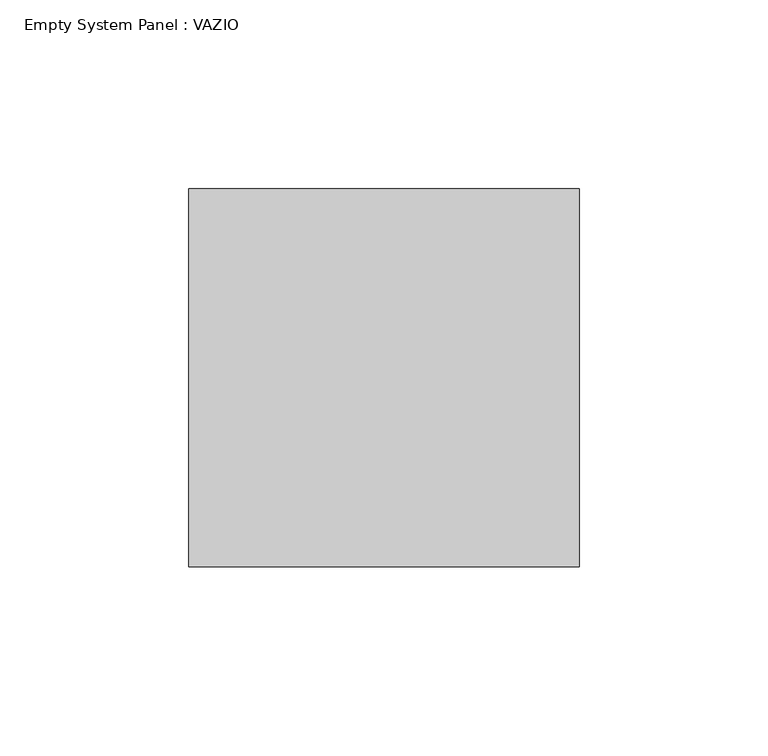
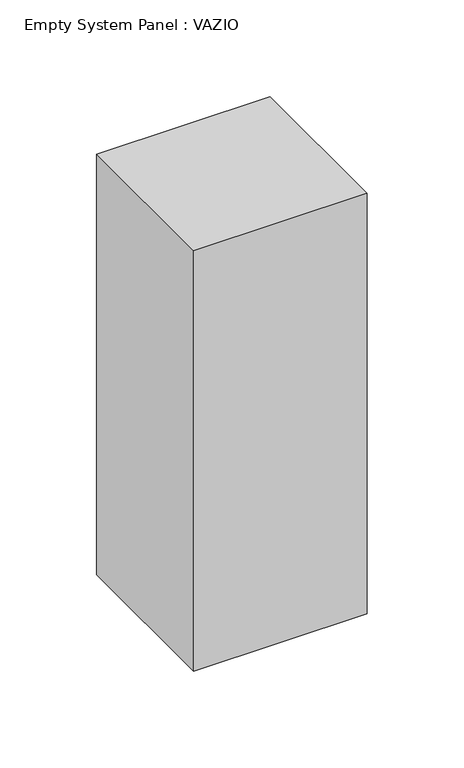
"""IFC4 building model written with IfcOpenShell, lengths in millimetres: plate geometry, Empty System Panel : VAZIO."""

from ifc_helpers import new_model, si_unit, origin, origin_with_axes, place, context, project, spatial, polyline, outline, extrude, source, transform, mapped, element, save


def empty_system_panel_vazio_3a64aa83(model_context):
    return source(origin(), model_context, "Body", "SweptSolid", [
        extrude(outline(polyline([(51.6713059, -50.0), (-51.6713059, -50.0), (-51.6713059, 50.0), (51.6713059, 50.0), (51.6713059, -50.0)])), origin_with_axes(), (0.0, 0.0, 1.0), 265.0),
    ])


if __name__ == "__main__":
    model = new_model("IFC4")
    model_context = context("Model", 3, world=origin())
    ifc_project = project(units=[si_unit("LENGTHUNIT", "METRE", prefix="MILLI")], contexts=[model_context])
    site = spatial("IfcSite", under=ifc_project)
    building = spatial("IfcBuilding", under=site)
    placement = place(None, origin())
    empty_system_panel_vazio_shape = empty_system_panel_vazio_3a64aa83(model_context)
    element("IfcPlate", 1, ObjectType="Empty System Panel : VAZIO", at=placement, inside=building, context=model_context, shape_type="MappedRepresentation", body=[
        mapped(empty_system_panel_vazio_shape, transform((0.0, 0.0, 0.0), x_axis=(1.0, 0.0, 0.0), y_axis=(0.0, 1.0, 0.0), z_axis=(0.0, 0.0, 1.0))),
    ])
    save(model, "model.ifc")
